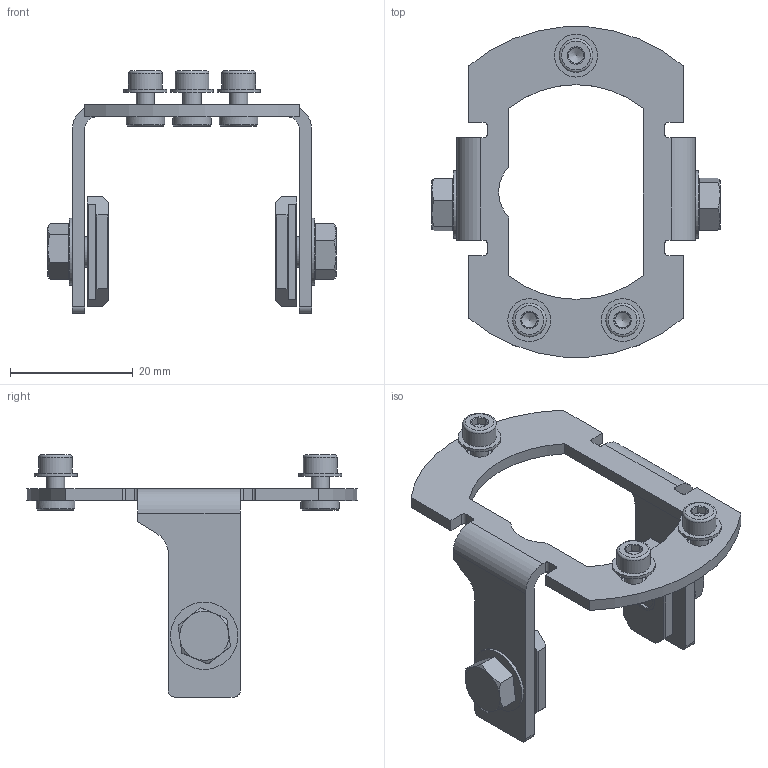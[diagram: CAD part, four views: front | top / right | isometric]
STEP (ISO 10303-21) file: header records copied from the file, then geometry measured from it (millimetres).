
FILE_DESCRIPTION(/* description */ (''),/* implementation_level */ '2;1');
FILE_NAME(/* name */ 'DSD-0784.stp',/* time_stamp */ '2016-08-29T17:53:15+02:00',/* author */ (''),/* organization */ (''),/* preprocessor_version */ 'ST-DEVELOPER v16',/* originating_system */ 'SIEMENS PLM Software NX 10.0',/* authorisation */ '');
FILE_SCHEMA (('AUTOMOTIVE_DESIGN { 1 0 10303 214 3 1 1 1 }'));
Length unit declared in the file: millimetre
Products named in the file (8): CP001044_00; UP000988_00; UP001502_00; UP001500_00; UP001497_00; MP013217_01; MP013208_01; MP013563_01
Assembly tree (16 placements, depth 3):
  MP013563_01
    MP013208_01
      CP001044_00  x3
    MP013217_01  x2
    UP001497_00  x3
    UP001500_00  x2
    UP001502_00  x2
    UP000988_00  x3
Bounding box: 47 x 53.83 x 39.5 mm (x, y, z)
Volume: 5496 mm3; surface area: 7477.6 mm2
Topology: 16 solids, 18 shells, 531 faces, 1362 edges, 878 vertices
Faces by surface type: plane 404, cylinder 61, cone 57, torus 9
Full cylindrical faces by diameter (mm): 2.5 x3, 2.95 x3, 3.2 x3, 4.2 x2, 4.22 x3, 4.25 x3, 5 x4, 5.3 x2, 5.5 x5, 6.3 x3, 7 x3, 7.4 x2, 11 x2
Entity records: 8397 total; most frequent: CARTESIAN_POINT 1915, ORIENTED_EDGE 1140, DIRECTION 1008, EDGE_CURVE 571, VERTEX_POINT 390, AXIS2_PLACEMENT_3D 356, LINE 296, VECTOR 296
